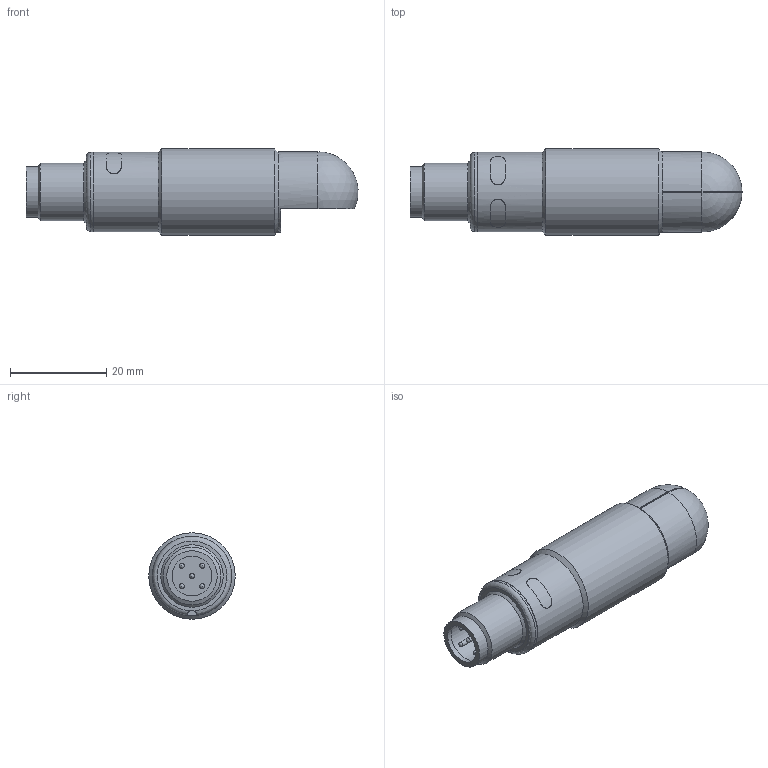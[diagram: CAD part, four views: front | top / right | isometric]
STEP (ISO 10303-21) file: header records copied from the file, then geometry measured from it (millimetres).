
FILE_DESCRIPTION(/* description */ ('Ipc-25 /CXX/M18'),/* implementation_level */ '2;1');
FILE_NAME(/* name */ 'J:\Projekte\Kunststoff-Blechteile\Zeichnungen\Bibliothek Inventor\3D Solids\pico+\STP\pico+25\pico+25_WK_X.stp',/* time_stamp */ '2017-11-06T12:18:20+01:00',/* author */ ('Oliver Liedtke'),/* organization */ (''),/* preprocessor_version */ 'ST-DEVELOPER v16.5',/* originating_system */ 'Autodesk Inventor 2017',/* authorisation */ '');
FILE_SCHEMA (('AUTOMOTIVE_DESIGN { 1 0 10303 214 3 1 1 }'));
Length unit declared in the file: millimetre
Products named in the file (1): pico+25_WK_X
Bounding box: 69.08 x 18 x 18 mm (x, y, z)
Volume: 12725.4 mm3; surface area: 4101 mm2
Topology: 1 solids, 1 shells, 66 faces, 151 edges, 96 vertices
Faces by surface type: plane 25, cylinder 21, cone 8, sphere 7, bspline 4, torus 1
Full cylindrical faces by diameter (mm): 1 x5, 8 x1, 8.3 x1, 9 x1, 10.5 x1, 12 x1, 14 x1, 16.3 x1, 16.5 x2, 18 x1
Entity records: 3274 total; most frequent: CARTESIAN_POINT 1853, DIRECTION 288, ORIENTED_EDGE 220, AXIS2_PLACEMENT_3D 125, EDGE_CURVE 110, EDGE_LOOP 100, VERTEX_POINT 80, FACE_OUTER_BOUND 66
